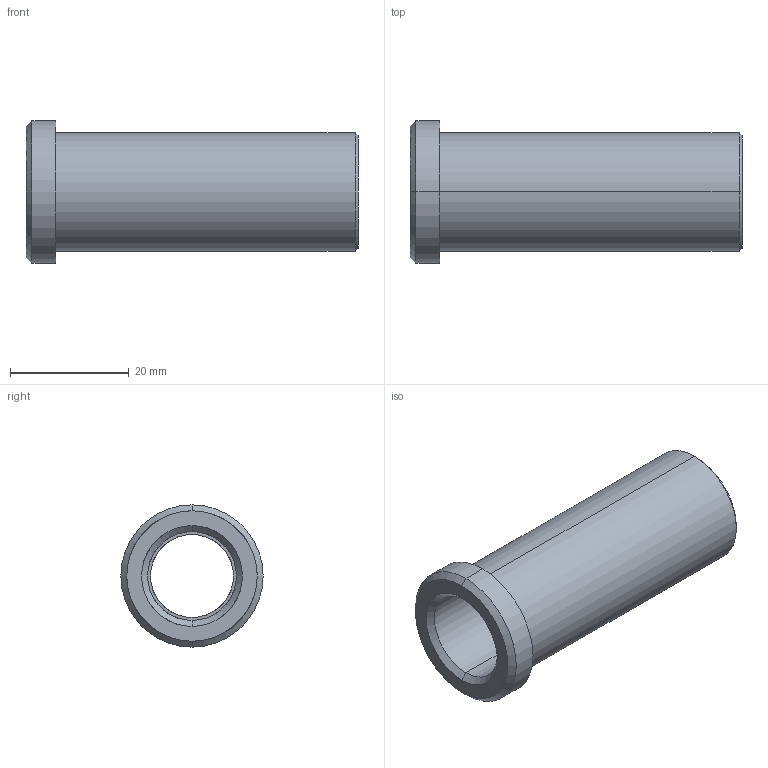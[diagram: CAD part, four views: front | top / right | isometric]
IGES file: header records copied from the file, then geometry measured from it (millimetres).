
Start section: START RECORD GO HERE.
Global section: file name: 353-14X56.igs; native system: DASSAULT SYSTEMES CATIA V5 R20 - www.3ds.com; preprocessor: CATIA Version 5 Release 20 ; author: Utente; organization: NB04-ASUS; date: 20210421.141550; units: millimetre
Bounding box: 56 x 24 x 24 mm (x, y, z)
Surface area: 6620.4 mm2 (no closed solid volume)
Topology: 0 solids, 0 shells, 20 faces, 128 edges, 128 vertices
Faces by surface type: revolution 16, plane 4
